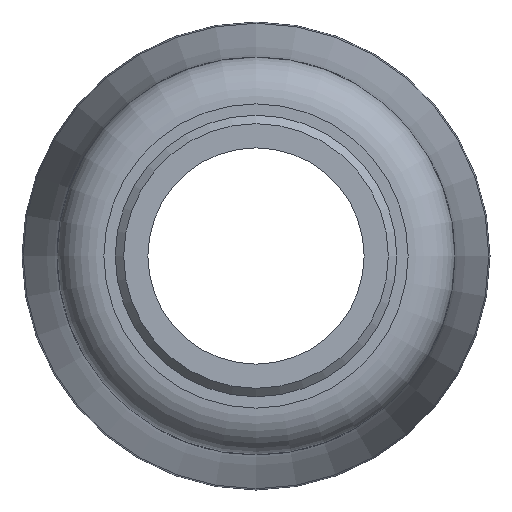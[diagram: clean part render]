
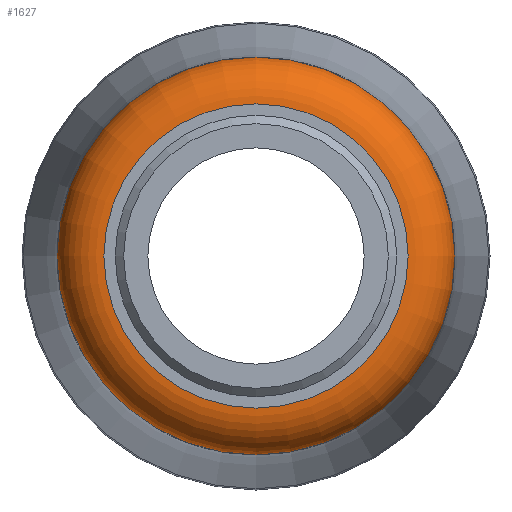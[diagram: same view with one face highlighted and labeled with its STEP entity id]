
A CAD part, left-side view. The second image highlights one B-rep face of the part: STEP entity #1627.
In plain terms, the highlighted toroidal (fillet/blend) face has major radius 13.325 mm and minor radius 4.1 mm.
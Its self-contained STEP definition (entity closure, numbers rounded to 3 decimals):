
#15=TOROIDAL_SURFACE('',#1778,13.325,4.1);
#343=FACE_BOUND('',#490,.T.);
#382=FACE_OUTER_BOUND('',#489,.T.);
#489=EDGE_LOOP('',(#1156));
#490=EDGE_LOOP('',(#1157));
#621=CIRCLE('',#1779,13.325);
#622=CIRCLE('',#1780,17.425);
#723=VERTEX_POINT('',#2795);
#724=VERTEX_POINT('',#2797);
#889=EDGE_CURVE('',#723,#723,#621,.T.);
#890=EDGE_CURVE('',#724,#724,#622,.T.);
#1156=ORIENTED_EDGE('',*,*,#889,.T.);
#1157=ORIENTED_EDGE('',*,*,#890,.T.);
#1627=ADVANCED_FACE('',(#382,#343),#15,.T.);
#1778=AXIS2_PLACEMENT_3D('',#2794,#2059,#2060);
#1779=AXIS2_PLACEMENT_3D('',#2796,#2061,#2062);
#1780=AXIS2_PLACEMENT_3D('',#2798,#2063,#2064);
#2059=DIRECTION('center_axis',(1.,0.,0.));
#2060=DIRECTION('ref_axis',(0.,0.,-1.));
#2061=DIRECTION('center_axis',(1.,0.,0.));
#2062=DIRECTION('ref_axis',(0.,-1.,0.));
#2063=DIRECTION('center_axis',(-1.,0.,0.));
#2064=DIRECTION('ref_axis',(0.,-1.,0.));
#2794=CARTESIAN_POINT('Origin',(19.1,0.,0.));
#2795=CARTESIAN_POINT('',(15.,13.325,0.));
#2796=CARTESIAN_POINT('Origin',(15.,0.,0.));
#2797=CARTESIAN_POINT('',(19.1,17.425,0.));
#2798=CARTESIAN_POINT('Origin',(19.1,0.,0.));
